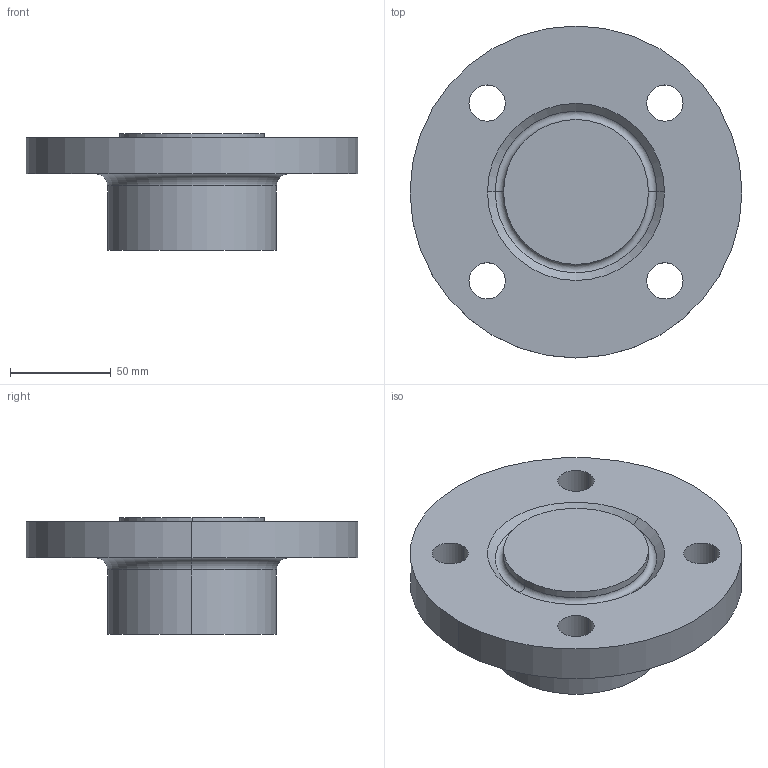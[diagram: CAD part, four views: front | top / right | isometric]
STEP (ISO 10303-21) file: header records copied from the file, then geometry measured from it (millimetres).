
FILE_DESCRIPTION (( 'STEP AP214' ), '1' );
FILE_NAME ('PN40 DN50 Type 21(i) - Type H Face.STEP', '2018-12-30T04:24:28', ( '' ), ( '' ), 'SwSTEP 2.0', 'SolidWorks 2019', '' );
FILE_SCHEMA (( 'AUTOMOTIVE_DESIGN' ));
Length unit declared in the file: millimetre
Products named in the file (1): PN40 DN50 Type 21(i) - Type H Face
Bounding box: 165 x 165 x 58 mm (x, y, z)
Volume: 582121.2 mm3; surface area: 64987.1 mm2
Topology: 1 solids, 1 shells, 24 faces, 54 edges, 34 vertices
Faces by surface type: cylinder 14, torus 4, plane 4, cone 2
Entity records: 738 total; most frequent: DIRECTION 142, CARTESIAN_POINT 113, ORIENTED_EDGE 108, AXIS2_PLACEMENT_3D 63, EDGE_CURVE 54, CIRCLE 38, VERTEX_POINT 34, EDGE_LOOP 34
